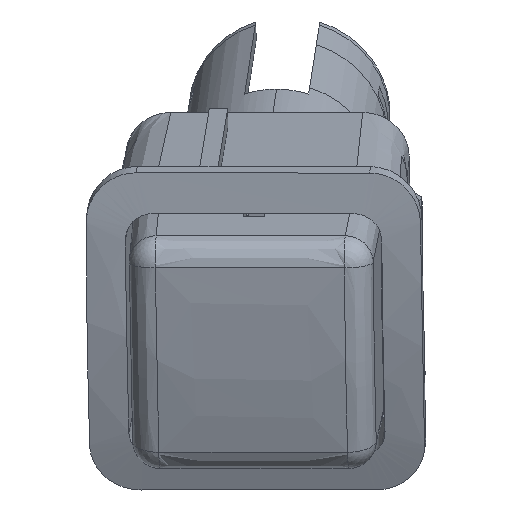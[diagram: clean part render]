
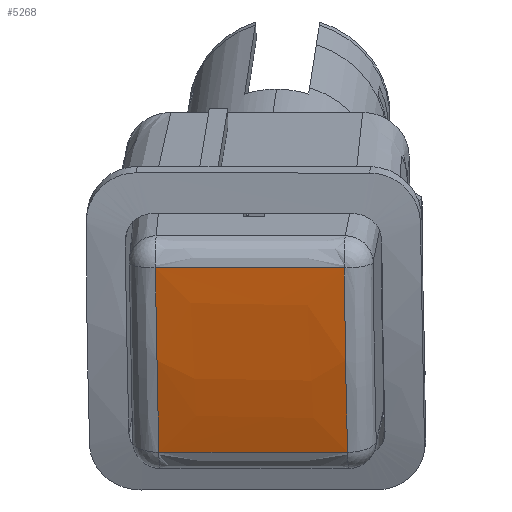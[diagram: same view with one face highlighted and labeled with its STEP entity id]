
A CAD part, top view. The second image highlights one B-rep face of the part: STEP entity #5268.
In plain terms, the highlighted free-form (B-spline) face has degree [5, 5] with [6, 6] control points.
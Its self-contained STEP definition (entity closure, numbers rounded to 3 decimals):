
#4631=CARTESIAN_POINT('Control Point',(-399.119,-1859.859,524.745)) ;
#4632=CARTESIAN_POINT('Control Point',(-394.991,-1859.863,524.967)) ;
#4633=CARTESIAN_POINT('Control Point',(-390.864,-1859.866,525.188)) ;
#4634=CARTESIAN_POINT('Control Point',(-386.736,-1859.869,525.408)) ;
#4635=CARTESIAN_POINT('Control Point',(-382.609,-1859.872,525.626)) ;
#4636=CARTESIAN_POINT('Control Point',(-378.482,-1859.874,525.844)) ;
#4637=CARTESIAN_POINT('Vertex',(-378.482,-1859.874,525.844)) ;
#4639=CARTESIAN_POINT('Vertex',(-399.119,-1859.859,524.745)) ;
#4980=CARTESIAN_POINT('Vertex',(-378.137,-1879.982,518.986)) ;
#4995=CARTESIAN_POINT('Control Point',(-378.482,-1859.874,525.844)) ;
#4996=CARTESIAN_POINT('Control Point',(-378.477,-1860.455,525.709)) ;
#4997=CARTESIAN_POINT('Control Point',(-378.472,-1861.028,525.571)) ;
#4998=CARTESIAN_POINT('Control Point',(-378.467,-1861.579,525.434)) ;
#4999=CARTESIAN_POINT('Control Point',(-378.458,-1862.501,525.199)) ;
#5000=CARTESIAN_POINT('Control Point',(-378.45,-1863.342,524.975)) ;
#5001=CARTESIAN_POINT('Control Point',(-378.447,-1863.677,524.884)) ;
#5002=CARTESIAN_POINT('Control Point',(-378.442,-1864.12,524.762)) ;
#5003=CARTESIAN_POINT('Control Point',(-378.437,-1864.561,524.637)) ;
#5004=CARTESIAN_POINT('Control Point',(-378.435,-1864.692,524.6)) ;
#5005=CARTESIAN_POINT('Control Point',(-378.431,-1865.082,524.489)) ;
#5006=CARTESIAN_POINT('Control Point',(-378.426,-1865.472,524.376)) ;
#5007=CARTESIAN_POINT('Control Point',(-378.423,-1865.743,524.296)) ;
#5008=CARTESIAN_POINT('Control Point',(-378.416,-1866.286,524.135)) ;
#5009=CARTESIAN_POINT('Control Point',(-378.409,-1866.827,523.97)) ;
#5010=CARTESIAN_POINT('Control Point',(-378.405,-1867.098,523.887)) ;
#5011=CARTESIAN_POINT('Control Point',(-378.393,-1867.909,523.634)) ;
#5012=CARTESIAN_POINT('Control Point',(-378.381,-1868.718,523.372)) ;
#5013=CARTESIAN_POINT('Control Point',(-378.372,-1869.257,523.195)) ;
#5014=CARTESIAN_POINT('Control Point',(-378.354,-1870.333,522.831)) ;
#5015=CARTESIAN_POINT('Control Point',(-378.335,-1871.406,522.454)) ;
#5016=CARTESIAN_POINT('Control Point',(-378.324,-1871.941,522.261)) ;
#5017=CARTESIAN_POINT('Control Point',(-378.303,-1873.011,521.869)) ;
#5018=CARTESIAN_POINT('Control Point',(-378.281,-1874.077,521.462)) ;
#5019=CARTESIAN_POINT('Control Point',(-378.269,-1874.607,521.256)) ;
#5020=CARTESIAN_POINT('Control Point',(-378.248,-1875.56,520.878)) ;
#5021=CARTESIAN_POINT('Control Point',(-378.225,-1876.503,520.492)) ;
#5022=CARTESIAN_POINT('Control Point',(-378.215,-1876.939,520.311)) ;
#5023=CARTESIAN_POINT('Control Point',(-378.194,-1877.78,519.957)) ;
#5024=CARTESIAN_POINT('Control Point',(-378.171,-1878.694,519.56)) ;
#5025=CARTESIAN_POINT('Control Point',(-378.16,-1879.116,519.375)) ;
#5026=CARTESIAN_POINT('Control Point',(-378.149,-1879.546,519.183)) ;
#5027=CARTESIAN_POINT('Control Point',(-378.137,-1879.982,518.986)) ;
#5093=CARTESIAN_POINT('Control Point',(-378.137,-1879.982,518.986)) ;
#5094=CARTESIAN_POINT('Control Point',(-382.256,-1879.984,518.778)) ;
#5095=CARTESIAN_POINT('Control Point',(-386.375,-1879.984,518.569)) ;
#5096=CARTESIAN_POINT('Control Point',(-390.494,-1879.985,518.357)) ;
#5097=CARTESIAN_POINT('Control Point',(-394.613,-1879.984,518.143)) ;
#5098=CARTESIAN_POINT('Control Point',(-398.733,-1879.983,517.926)) ;
#5099=CARTESIAN_POINT('Vertex',(-398.733,-1879.983,517.926)) ;
#5210=CARTESIAN_POINT('Control Point',(-398.733,-1879.983,517.926)) ;
#5211=CARTESIAN_POINT('Control Point',(-398.81,-1876.055,519.694)) ;
#5212=CARTESIAN_POINT('Control Point',(-398.888,-1872.074,521.268)) ;
#5213=CARTESIAN_POINT('Control Point',(-398.965,-1868.044,522.64)) ;
#5214=CARTESIAN_POINT('Control Point',(-399.042,-1863.97,523.8)) ;
#5215=CARTESIAN_POINT('Control Point',(-399.119,-1859.859,524.745)) ;
#5226=CARTESIAN_POINT('Control Point',(-399.647,-1859.479,524.803)) ;
#5227=CARTESIAN_POINT('Control Point',(-399.478,-1863.638,523.869)) ;
#5228=CARTESIAN_POINT('Control Point',(-399.301,-1867.771,522.712)) ;
#5229=CARTESIAN_POINT('Control Point',(-399.118,-1871.874,521.334)) ;
#5230=CARTESIAN_POINT('Control Point',(-398.929,-1875.945,519.738)) ;
#5231=CARTESIAN_POINT('Control Point',(-398.733,-1879.983,517.926)) ;
#5232=CARTESIAN_POINT('Control Point',(-395.414,-1859.565,525.013)) ;
#5233=CARTESIAN_POINT('Control Point',(-395.236,-1863.724,524.075)) ;
#5234=CARTESIAN_POINT('Control Point',(-395.052,-1867.856,522.913)) ;
#5235=CARTESIAN_POINT('Control Point',(-394.861,-1871.958,521.531)) ;
#5236=CARTESIAN_POINT('Control Point',(-394.663,-1876.029,519.93)) ;
#5237=CARTESIAN_POINT('Control Point',(-394.459,-1880.067,518.114)) ;
#5238=CARTESIAN_POINT('Control Point',(-391.181,-1859.647,525.222)) ;
#5239=CARTESIAN_POINT('Control Point',(-390.995,-1863.805,524.279)) ;
#5240=CARTESIAN_POINT('Control Point',(-390.802,-1867.937,523.113)) ;
#5241=CARTESIAN_POINT('Control Point',(-390.603,-1872.038,521.726)) ;
#5242=CARTESIAN_POINT('Control Point',(-390.397,-1876.108,520.121)) ;
#5243=CARTESIAN_POINT('Control Point',(-390.185,-1880.145,518.3)) ;
#5244=CARTESIAN_POINT('Control Point',(-386.948,-1859.726,525.43)) ;
#5245=CARTESIAN_POINT('Control Point',(-386.754,-1863.883,524.483)) ;
#5246=CARTESIAN_POINT('Control Point',(-386.553,-1868.014,523.312)) ;
#5247=CARTESIAN_POINT('Control Point',(-386.346,-1872.114,521.921)) ;
#5248=CARTESIAN_POINT('Control Point',(-386.132,-1876.183,520.311)) ;
#5249=CARTESIAN_POINT('Control Point',(-385.911,-1880.22,518.486)) ;
#5250=CARTESIAN_POINT('Control Point',(-382.715,-1859.802,525.637)) ;
#5251=CARTESIAN_POINT('Control Point',(-382.513,-1863.958,524.685)) ;
#5252=CARTESIAN_POINT('Control Point',(-382.304,-1868.087,523.51)) ;
#5253=CARTESIAN_POINT('Control Point',(-382.089,-1872.187,522.115)) ;
#5254=CARTESIAN_POINT('Control Point',(-381.866,-1876.255,520.501)) ;
#5255=CARTESIAN_POINT('Control Point',(-381.638,-1880.29,518.671)) ;
#5256=CARTESIAN_POINT('Control Point',(-378.482,-1859.874,525.844)) ;
#5257=CARTESIAN_POINT('Control Point',(-378.272,-1864.029,524.887)) ;
#5258=CARTESIAN_POINT('Control Point',(-378.055,-1868.157,523.708)) ;
#5259=CARTESIAN_POINT('Control Point',(-377.831,-1872.255,522.307)) ;
#5260=CARTESIAN_POINT('Control Point',(-377.601,-1876.322,520.689)) ;
#5261=CARTESIAN_POINT('Control Point',(-377.364,-1880.356,518.855)) ;
#5263=ORIENTED_EDGE('',*,*,#5216,.T.) ;
#5264=ORIENTED_EDGE('',*,*,#5101,.T.) ;
#5265=ORIENTED_EDGE('',*,*,#5028,.T.) ;
#5266=ORIENTED_EDGE('',*,*,#4641,.T.) ;
#5268=ADVANCED_FACE('\X2\6C1452A8\X0\-\X2\901F964D624B67C4\X0\',(#5267),#5225,.F.) ;
#4630=B_SPLINE_CURVE_WITH_KNOTS('',5,(#4631,#4632,#4633,#4634,#4635,#4636),.UNSPECIFIED.,.F.,.U.,(6,6),(15.389,36.053),.UNSPECIFIED.) ;
#4994=B_SPLINE_CURVE_WITH_KNOTS('',5,(#4995,#4996,#4997,#4998,#4999,#5000,#5001,#5002,#5003,#5004,#5005,#5006,#5007,#5008,#5009,#5010,#5011,#5012,#5013,#5014,#5015,#5016,#5017,#5018,#5019,#5020,#5021,#5022,#5023,#5024,#5025,#5026,#5027),.UNSPECIFIED.,.F.,.U.,(6,3,3,3,3,3,3,3,3,3,6),(10.092,12.54,14.311,14.96,16.453,17.945,20.93,23.914,26.899,29.246,31.142),.UNSPECIFIED.) ;
#5092=B_SPLINE_CURVE_WITH_KNOTS('',5,(#5093,#5094,#5095,#5096,#5097,#5098),.UNSPECIFIED.,.F.,.U.,(6,6),(15.869,36.489),.UNSPECIFIED.) ;
#5209=B_SPLINE_CURVE_WITH_KNOTS('',5,(#5210,#5211,#5212,#5213,#5214,#5215),.UNSPECIFIED.,.F.,.U.,(6,6),(13.522,34.584),.UNSPECIFIED.) ;
#5225=B_SPLINE_SURFACE_WITH_KNOTS('',5,5,((#5226,#5227,#5228,#5229,#5230,#5231),(#5232,#5233,#5234,#5235,#5236,#5237),(#5238,#5239,#5240,#5241,#5242,#5243),(#5244,#5245,#5246,#5247,#5248,#5249),(#5250,#5251,#5252,#5253,#5254,#5255),(#5256,#5257,#5258,#5259,#5260,#5261)),.UNSPECIFIED.,.F.,.F.,.U.,(6,6),(6,6),(129.025,150.318),(20.851,42.565),.UNSPECIFIED.) ;
#4641=EDGE_CURVE('',#4638,#4640,#4630,.F.) ;
#5028=EDGE_CURVE('',#4981,#4638,#4994,.F.) ;
#5101=EDGE_CURVE('',#5100,#4981,#5092,.F.) ;
#5216=EDGE_CURVE('',#4640,#5100,#5209,.F.) ;
#5262=EDGE_LOOP('',(#5263,#5264,#5265,#5266)) ;
#5267=FACE_OUTER_BOUND('',#5262,.T.) ;
#4638=VERTEX_POINT('',#4637) ;
#4640=VERTEX_POINT('',#4639) ;
#4981=VERTEX_POINT('',#4980) ;
#5100=VERTEX_POINT('',#5099) ;
